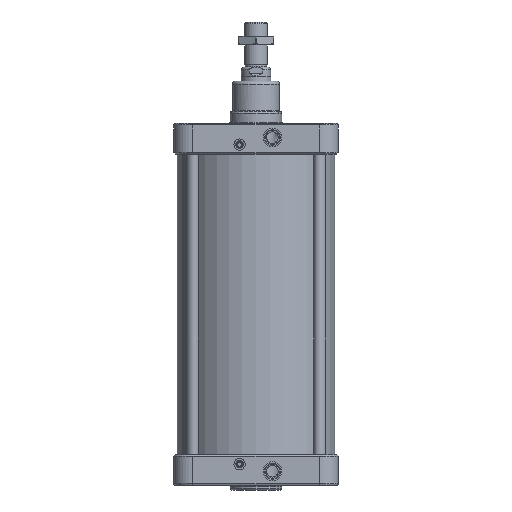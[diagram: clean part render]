
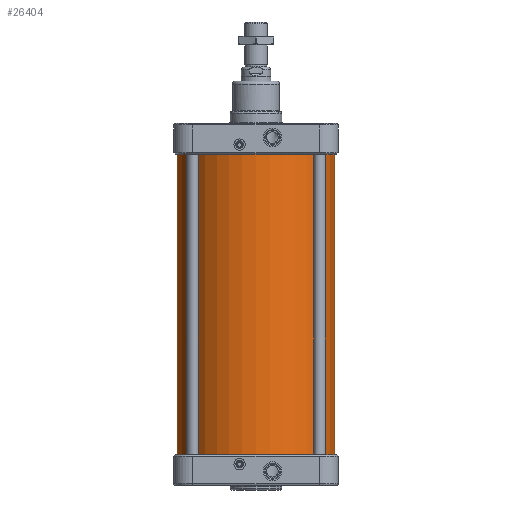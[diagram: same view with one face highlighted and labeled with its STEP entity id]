
A CAD part, front view. The second image highlights one B-rep face of the part: STEP entity #26404.
In plain terms, the highlighted cylindrical face has radius 168 mm (diameter 336 mm), a full revolution.
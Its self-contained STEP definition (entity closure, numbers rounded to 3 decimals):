
#2804=CIRCLE('',#29645,168.);
#2805=CIRCLE('',#29647,168.);
#3478=FACE_BOUND('',#7098,.T.);
#5147=FACE_OUTER_BOUND('',#7097,.T.);
#7097=EDGE_LOOP('',(#22547));
#7098=EDGE_LOOP('',(#22548));
#11979=VERTEX_POINT('',#64759);
#11980=VERTEX_POINT('',#64762);
#15511=EDGE_CURVE('',#11979,#11979,#2804,.T.);
#15512=EDGE_CURVE('',#11980,#11980,#2805,.T.);
#22547=ORIENTED_EDGE('',*,*,#15511,.T.);
#22548=ORIENTED_EDGE('',*,*,#15512,.T.);
#23070=CYLINDRICAL_SURFACE('',#29646,168.);
#26404=ADVANCED_FACE('',(#5147,#3478),#23070,.T.);
#29645=AXIS2_PLACEMENT_3D('',#64760,#36878,#36879);
#29646=AXIS2_PLACEMENT_3D('',#64761,#36880,#36881);
#29647=AXIS2_PLACEMENT_3D('',#64763,#36882,#36883);
#36878=DIRECTION('center_axis',(0.,0.,1.));
#36879=DIRECTION('ref_axis',(-1.,0.,0.));
#36880=DIRECTION('center_axis',(0.,0.,1.));
#36881=DIRECTION('ref_axis',(-1.,0.,0.));
#36882=DIRECTION('center_axis',(0.,0.,-1.));
#36883=DIRECTION('ref_axis',(-1.,0.,0.));
#64759=CARTESIAN_POINT('',(168.,0.,-320.));
#64760=CARTESIAN_POINT('Origin',(0.,0.,-320.));
#64761=CARTESIAN_POINT('Origin',(0.,0.,0.));
#64762=CARTESIAN_POINT('',(168.,0.,320.));
#64763=CARTESIAN_POINT('Origin',(0.,0.,320.));
